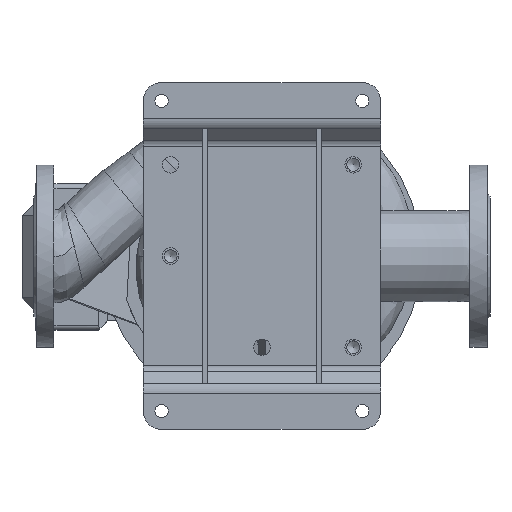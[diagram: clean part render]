
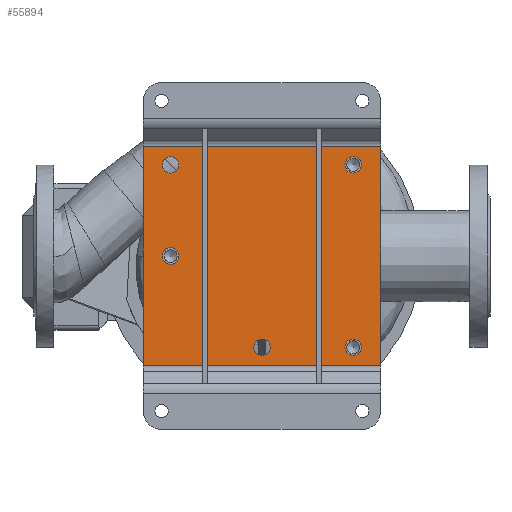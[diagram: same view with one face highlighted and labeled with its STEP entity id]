
A CAD part, top view. The second image highlights one B-rep face of the part: STEP entity #55894.
In plain terms, the highlighted planar face has unit normal (0, 0, 1) as drawn and (0, -1, 0) by its records, which use the part's own axes.
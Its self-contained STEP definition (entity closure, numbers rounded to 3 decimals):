
#1437 = DIRECTION ( 'NONE',  ( 0., -1., 0. ) ) ;
#3344 = DIRECTION ( 'NONE',  ( 1., 0., 0. ) ) ;
#3371 = VERTEX_POINT ( 'NONE', #64199 ) ;
#3526 = EDGE_CURVE ( 'NONE', #47986, #32189, #20242, .T. ) ;
#6137 = FACE_BOUND ( 'NONE', #51789, .T. ) ;
#6402 = VERTEX_POINT ( 'NONE', #41632 ) ;
#6589 = AXIS2_PLACEMENT_3D ( 'NONE', #12177, #1437, #45079 ) ;
#8667 = DIRECTION ( 'NONE',  ( 0., 0., -1. ) ) ;
#8712 = CARTESIAN_POINT ( 'NONE',  ( -120., -5., 130. ) ) ;
#9787 = CARTESIAN_POINT ( 'NONE',  ( 100., -5., 91. ) ) ;
#10190 = CARTESIAN_POINT ( 'NONE',  ( 100., -5., 0. ) ) ;
#10730 = CIRCLE ( 'NONE', #46108, 9. ) ;
#10798 = DIRECTION ( 'NONE',  ( 0., -1., 0. ) ) ;
#11462 = VECTOR ( 'NONE', #3344, 1000. ) ;
#11871 = ORIENTED_EDGE ( 'NONE', *, *, #20662, .F. ) ;
#12177 = CARTESIAN_POINT ( 'NONE',  ( 100., -5., 100. ) ) ;
#12561 = FACE_BOUND ( 'NONE', #21810, .T. ) ;
#12808 = ORIENTED_EDGE ( 'NONE', *, *, #3526, .F. ) ;
#13763 = CARTESIAN_POINT ( 'NONE',  ( -100., -5., 91. ) ) ;
#16110 = EDGE_LOOP ( 'NONE', ( #22189 ) ) ;
#16350 = DIRECTION ( 'NONE',  ( -1., 0., 0. ) ) ;
#16582 = AXIS2_PLACEMENT_3D ( 'NONE', #70580, #10798, #33688 ) ;
#16882 = FACE_BOUND ( 'NONE', #36508, .T. ) ;
#18006 = CARTESIAN_POINT ( 'NONE',  ( -100., -5., 100. ) ) ;
#20242 = LINE ( 'NONE', #58197, #61995 ) ;
#20599 = DIRECTION ( 'NONE',  ( 0., 0., 1. ) ) ;
#20662 = EDGE_CURVE ( 'NONE', #32189, #69692, #52728, .T. ) ;
#21810 = EDGE_LOOP ( 'NONE', ( #56648 ) ) ;
#22082 = CARTESIAN_POINT ( 'NONE',  ( -120., -5., -130. ) ) ;
#22189 = ORIENTED_EDGE ( 'NONE', *, *, #46559, .F. ) ;
#22265 = CIRCLE ( 'NONE', #16582, 9. ) ;
#22564 = ORIENTED_EDGE ( 'NONE', *, *, #60254, .F. ) ;
#22609 = FACE_BOUND ( 'NONE', #16110, .T. ) ;
#23363 = DIRECTION ( 'NONE',  ( 0., -1., 0. ) ) ;
#23661 = DIRECTION ( 'NONE',  ( 0., -1., 0. ) ) ;
#24848 = CIRCLE ( 'NONE', #6589, 9. ) ;
#28725 = DIRECTION ( 'NONE',  ( 0., 0., -1. ) ) ;
#30138 = VECTOR ( 'NONE', #8667, 1000. ) ;
#30693 = CARTESIAN_POINT ( 'NONE',  ( -120., -5., 130. ) ) ;
#32020 = DIRECTION ( 'NONE',  ( 0., 0., -1. ) ) ;
#32189 = VERTEX_POINT ( 'NONE', #30693 ) ;
#32700 = CARTESIAN_POINT ( 'NONE',  ( -120., -5., -130. ) ) ;
#33647 = AXIS2_PLACEMENT_3D ( 'NONE', #10190, #42755, #32020 ) ;
#33688 = DIRECTION ( 'NONE',  ( 0., 0., -1. ) ) ;
#36169 = ORIENTED_EDGE ( 'NONE', *, *, #57196, .F. ) ;
#36508 = EDGE_LOOP ( 'NONE', ( #62256 ) ) ;
#38528 = LINE ( 'NONE', #22082, #64360 ) ;
#38700 = FACE_BOUND ( 'NONE', #51838, .T. ) ;
#39890 = VERTEX_POINT ( 'NONE', #40595 ) ;
#40351 = CARTESIAN_POINT ( 'NONE',  ( 0., -5., -100. ) ) ;
#40595 = CARTESIAN_POINT ( 'NONE',  ( 100., -5., -9. ) ) ;
#40748 = ORIENTED_EDGE ( 'NONE', *, *, #67516, .F. ) ;
#41564 = CIRCLE ( 'NONE', #59868, 9. ) ;
#41632 = CARTESIAN_POINT ( 'NONE',  ( 120., -5., -130. ) ) ;
#42755 = DIRECTION ( 'NONE',  ( 0., -1., 0. ) ) ;
#45064 = CIRCLE ( 'NONE', #33647, 9. ) ;
#45079 = DIRECTION ( 'NONE',  ( 0., 0., -1. ) ) ;
#46108 = AXIS2_PLACEMENT_3D ( 'NONE', #18006, #23363, #28725 ) ;
#46559 = EDGE_CURVE ( 'NONE', #50631, #50631, #10730, .T. ) ;
#46607 = CARTESIAN_POINT ( 'NONE',  ( 120., -5., 130. ) ) ;
#46890 = EDGE_CURVE ( 'NONE', #69692, #6402, #58072, .T. ) ;
#47986 = VERTEX_POINT ( 'NONE', #32700 ) ;
#50631 = VERTEX_POINT ( 'NONE', #13763 ) ;
#50980 = VERTEX_POINT ( 'NONE', #51341 ) ;
#51341 = CARTESIAN_POINT ( 'NONE',  ( -100., -5., -109. ) ) ;
#51789 = EDGE_LOOP ( 'NONE', ( #40748 ) ) ;
#51838 = EDGE_LOOP ( 'NONE', ( #22564 ) ) ;
#52073 = EDGE_CURVE ( 'NONE', #39890, #39890, #45064, .T. ) ;
#52728 = LINE ( 'NONE', #8712, #11462 ) ;
#53705 = EDGE_CURVE ( 'NONE', #50980, #50980, #22265, .T. ) ;
#55894 = ADVANCED_FACE ( 'NONE', ( #12561, #16882, #38700, #6137, #22609, #56231 ), #66634, .T. ) ;
#56231 = FACE_OUTER_BOUND ( 'NONE', #60968, .T. ) ;
#56648 = ORIENTED_EDGE ( 'NONE', *, *, #52073, .F. ) ;
#56835 = DIRECTION ( 'NONE',  ( 0., -1., 0. ) ) ;
#56951 = DIRECTION ( 'NONE',  ( 0., 0., -1. ) ) ;
#57196 = EDGE_CURVE ( 'NONE', #6402, #47986, #38528, .T. ) ;
#58072 = LINE ( 'NONE', #46607, #30138 ) ;
#58197 = CARTESIAN_POINT ( 'NONE',  ( -120., -5., 130. ) ) ;
#59191 = VERTEX_POINT ( 'NONE', #9787 ) ;
#59738 = CARTESIAN_POINT ( 'NONE',  ( 120., -5., 130. ) ) ;
#59868 = AXIS2_PLACEMENT_3D ( 'NONE', #40351, #56835, #67930 ) ;
#60254 = EDGE_CURVE ( 'NONE', #3371, #3371, #41564, .T. ) ;
#60393 = ORIENTED_EDGE ( 'NONE', *, *, #46890, .F. ) ;
#60968 = EDGE_LOOP ( 'NONE', ( #60393, #11871, #12808, #36169 ) ) ;
#61995 = VECTOR ( 'NONE', #20599, 1000. ) ;
#62256 = ORIENTED_EDGE ( 'NONE', *, *, #53705, .F. ) ;
#64199 = CARTESIAN_POINT ( 'NONE',  ( 0., -5., -109. ) ) ;
#64360 = VECTOR ( 'NONE', #16350, 1000. ) ;
#66634 = PLANE ( 'NONE',  #68870 ) ;
#67516 = EDGE_CURVE ( 'NONE', #59191, #59191, #24848, .T. ) ;
#67930 = DIRECTION ( 'NONE',  ( 0., 0., -1. ) ) ;
#68040 = CARTESIAN_POINT ( 'NONE',  ( 0., -5., 0. ) ) ;
#68870 = AXIS2_PLACEMENT_3D ( 'NONE', #68040, #23661, #56951 ) ;
#69692 = VERTEX_POINT ( 'NONE', #59738 ) ;
#70580 = CARTESIAN_POINT ( 'NONE',  ( -100., -5., -100. ) ) ;
